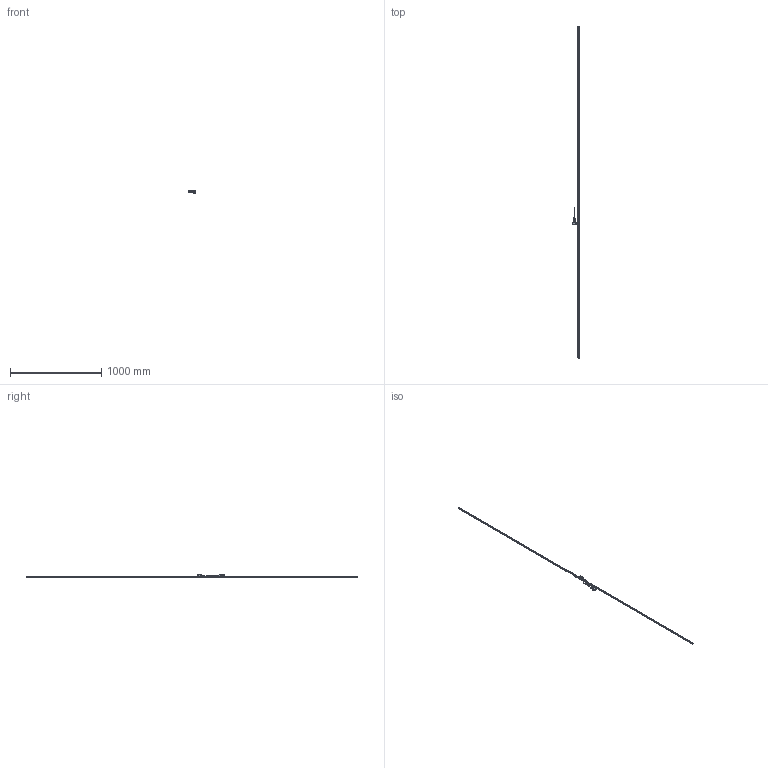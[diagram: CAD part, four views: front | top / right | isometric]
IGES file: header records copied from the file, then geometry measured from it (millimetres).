
Start section: Elysium IGES Interface
Global section: file name: 92HK:\20_商品設計\設計１課\個人\山室\05_作業中雑務\20220810_ST1300 3D HP掲載\ST1300-3600F_G.igs; native system: Creo Elements/Direct Modeling 18.1I  13-Aug-2016; preprocessor: Creo Element/Direct IGES_3D V2.2; author: Unknown; organization: Unknown; date: 20220816.115041; units: millimetre
Bounding box: 83 x 3640 x 30.1 mm (x, y, z)
Volume: 320802.4 mm3; surface area: 184685.8 mm2
Topology: 3 solids, 6 shells, 4104 faces, 11136 edges, 7210 vertices
Faces by surface type: bspline 4104
